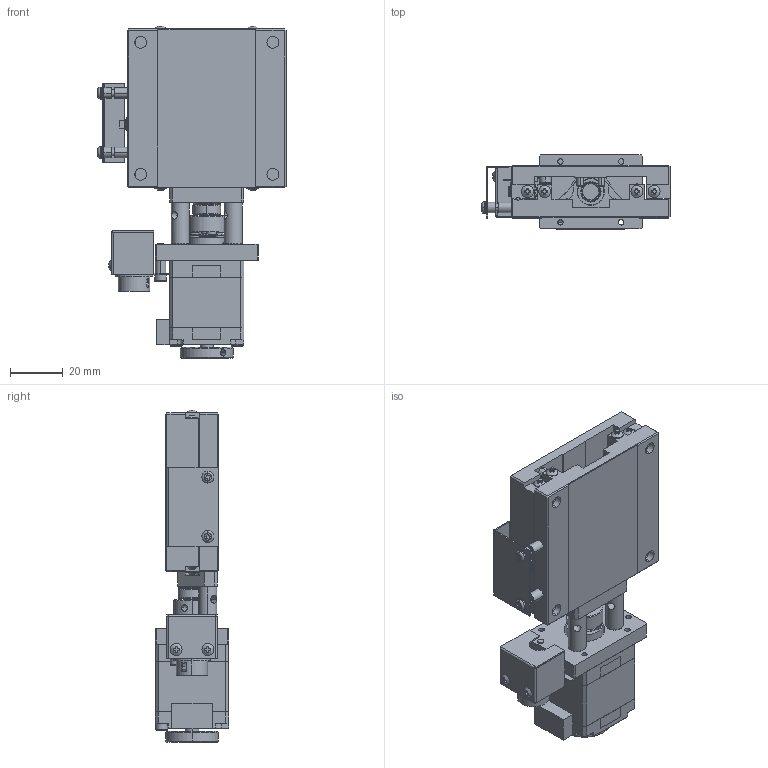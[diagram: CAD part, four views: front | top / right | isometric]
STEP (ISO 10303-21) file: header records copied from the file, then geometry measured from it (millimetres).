
FILE_DESCRIPTION (( 'STEP AP214' ), '1' );
FILE_NAME ('TXS6015E-L1-M28R.STEP', '2025-01-03T09:19:58', ( '' ), ( '' ), 'SwSTEP 2.0', 'SolidWorks 2020', '' );
FILE_SCHEMA (( 'AUTOMOTIVE_DESIGN' ));
Length unit declared in the file: millimetre
Products named in the file (1): TXS6015E-L1-M28R
Bounding box: 71.2 x 28 x 125.63 mm (x, y, z)
Volume: 88025.7 mm3; surface area: 48998.9 mm2
Topology: 85 solids, 85 shells, 1823 faces, 4695 edges, 3023 vertices
Faces by surface type: plane 898, cylinder 586, cone 175, bspline 84, sphere 56, torus 24
Entity records: 60250 total; most frequent: CARTESIAN_POINT 16418, ORIENTED_EDGE 8974, DIRECTION 8669, EDGE_CURVE 4487, AXIS2_PLACEMENT_3D 3143, VERTEX_POINT 2939, LINE 2383, VECTOR 2383
